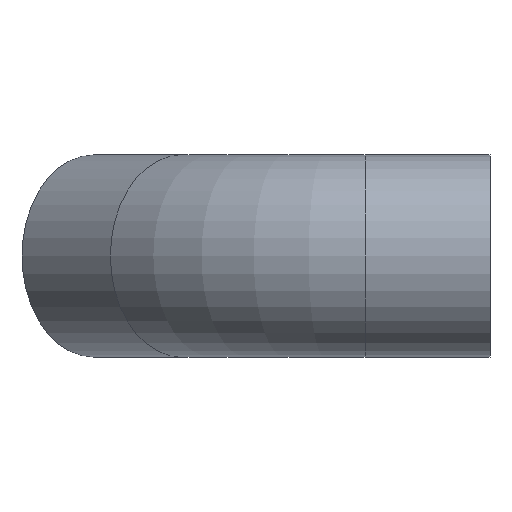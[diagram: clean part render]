
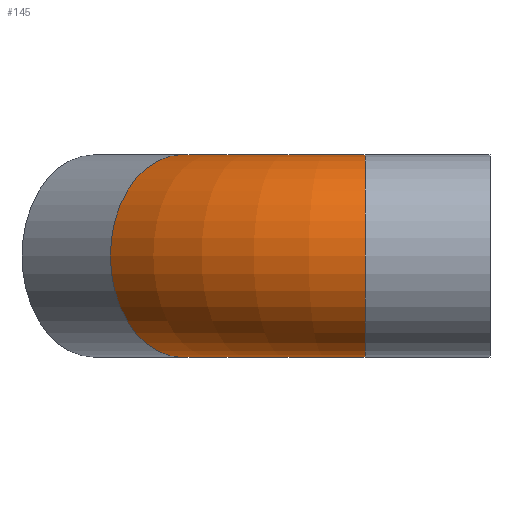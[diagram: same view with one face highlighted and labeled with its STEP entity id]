
A CAD part, left-side view. The second image highlights one B-rep face of the part: STEP entity #145.
In plain terms, the highlighted toroidal (fillet/blend) face has major radius 114 mm and minor radius 44.45 mm.
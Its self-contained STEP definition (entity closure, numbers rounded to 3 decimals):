
#20=TOROIDAL_SURFACE('',#184,114.,44.45);
#25=FACE_OUTER_BOUND('',#33,.T.);
#33=EDGE_LOOP('',(#119,#120,#121,#122,#123,#124));
#56=CIRCLE('',#182,44.45);
#57=CIRCLE('',#183,44.45);
#58=CIRCLE('',#185,69.55);
#59=CIRCLE('',#186,44.45);
#60=CIRCLE('',#187,44.45);
#71=VERTEX_POINT('',#271);
#72=VERTEX_POINT('',#273);
#73=VERTEX_POINT('',#277);
#74=VERTEX_POINT('',#279);
#89=EDGE_CURVE('',#71,#72,#56,.T.);
#90=EDGE_CURVE('',#72,#71,#57,.T.);
#91=EDGE_CURVE('',#71,#73,#58,.T.);
#92=EDGE_CURVE('',#73,#74,#59,.T.);
#93=EDGE_CURVE('',#74,#73,#60,.T.);
#119=ORIENTED_EDGE('',*,*,#90,.F.);
#120=ORIENTED_EDGE('',*,*,#89,.F.);
#121=ORIENTED_EDGE('',*,*,#91,.T.);
#122=ORIENTED_EDGE('',*,*,#92,.T.);
#123=ORIENTED_EDGE('',*,*,#93,.T.);
#124=ORIENTED_EDGE('',*,*,#91,.F.);
#145=ADVANCED_FACE('',(#25),#20,.T.);
#182=AXIS2_PLACEMENT_3D('',#274,#224,#225);
#183=AXIS2_PLACEMENT_3D('',#275,#226,#227);
#184=AXIS2_PLACEMENT_3D('',#276,#228,#229);
#185=AXIS2_PLACEMENT_3D('',#278,#230,#231);
#186=AXIS2_PLACEMENT_3D('',#280,#232,#233);
#187=AXIS2_PLACEMENT_3D('',#281,#234,#235);
#224=DIRECTION('center_axis',(0.707,0.707,0.));
#225=DIRECTION('ref_axis',(-0.707,0.707,0.));
#226=DIRECTION('center_axis',(0.707,0.707,0.));
#227=DIRECTION('ref_axis',(-0.707,0.707,0.));
#228=DIRECTION('center_axis',(0.,0.,-1.));
#229=DIRECTION('ref_axis',(-1.,0.,0.));
#230=DIRECTION('center_axis',(0.,0.,1.));
#231=DIRECTION('ref_axis',(-1.,0.,0.));
#232=DIRECTION('center_axis',(0.,1.,0.));
#233=DIRECTION('ref_axis',(-1.,0.,0.));
#234=DIRECTION('center_axis',(0.,1.,0.));
#235=DIRECTION('ref_axis',(-1.,0.,0.));
#271=CARTESIAN_POINT('',(64.821,104.179,0.));
#273=CARTESIAN_POINT('',(1.959,167.041,0.));
#274=CARTESIAN_POINT('Origin',(33.39,135.61,0.));
#275=CARTESIAN_POINT('Origin',(33.39,135.61,0.));
#276=CARTESIAN_POINT('Origin',(114.,55.,0.));
#277=CARTESIAN_POINT('',(44.45,55.,0.));
#278=CARTESIAN_POINT('Origin',(114.,55.,0.));
#279=CARTESIAN_POINT('',(-44.45,55.,0.));
#280=CARTESIAN_POINT('Origin',(0.,55.,0.));
#281=CARTESIAN_POINT('Origin',(0.,55.,0.));
